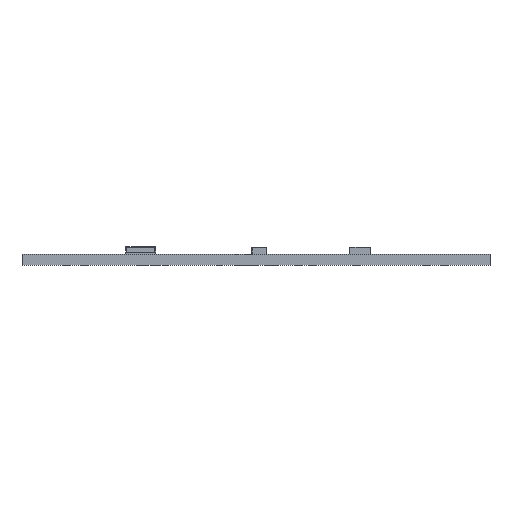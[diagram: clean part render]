
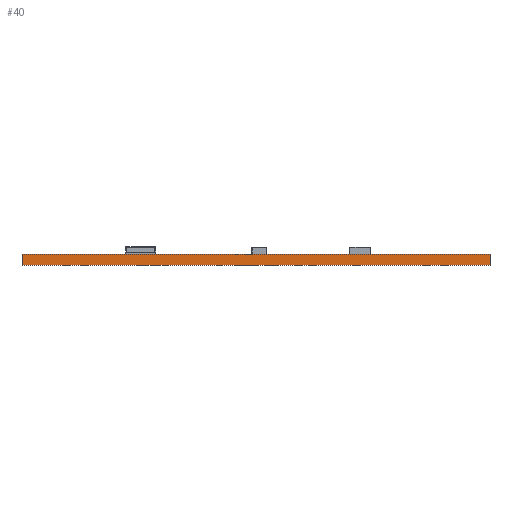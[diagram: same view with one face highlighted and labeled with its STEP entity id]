
A CAD part, front view. The second image highlights one B-rep face of the part: STEP entity #40.
In plain terms, the highlighted planar face has unit normal (0, -1, 0).
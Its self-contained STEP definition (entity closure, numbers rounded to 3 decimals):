
#40 = ADVANCED_FACE('',(#41),#75,.F.);
#41 = FACE_BOUND('',#42,.F.);
#42 = EDGE_LOOP('',(#43,#53,#61,#69));
#43 = ORIENTED_EDGE('',*,*,#44,.T.);
#44 = EDGE_CURVE('',#45,#47,#49,.T.);
#45 = VERTEX_POINT('',#46);
#46 = CARTESIAN_POINT('',(0.,0.,-1.571));
#47 = VERTEX_POINT('',#48);
#48 = CARTESIAN_POINT('',(0.,0.,0.));
#49 = LINE('',#50,#51);
#50 = CARTESIAN_POINT('',(0.,0.,-1.571));
#51 = VECTOR('',#52,1.);
#52 = DIRECTION('',(0.,0.,1.));
#53 = ORIENTED_EDGE('',*,*,#54,.T.);
#54 = EDGE_CURVE('',#47,#55,#57,.T.);
#55 = VERTEX_POINT('',#56);
#56 = CARTESIAN_POINT('',(66.,0.,0.));
#57 = LINE('',#58,#59);
#58 = CARTESIAN_POINT('',(0.,0.,0.));
#59 = VECTOR('',#60,1.);
#60 = DIRECTION('',(1.,0.,0.));
#61 = ORIENTED_EDGE('',*,*,#62,.F.);
#62 = EDGE_CURVE('',#63,#55,#65,.T.);
#63 = VERTEX_POINT('',#64);
#64 = CARTESIAN_POINT('',(66.,0.,-1.571));
#65 = LINE('',#66,#67);
#66 = CARTESIAN_POINT('',(66.,0.,-1.571));
#67 = VECTOR('',#68,1.);
#68 = DIRECTION('',(0.,0.,1.));
#69 = ORIENTED_EDGE('',*,*,#70,.F.);
#70 = EDGE_CURVE('',#45,#63,#71,.T.);
#71 = LINE('',#72,#73);
#72 = CARTESIAN_POINT('',(0.,0.,-1.571));
#73 = VECTOR('',#74,1.);
#74 = DIRECTION('',(1.,0.,0.));
#75 = PLANE('',#76);
#76 = AXIS2_PLACEMENT_3D('',#77,#78,#79);
#77 = CARTESIAN_POINT('',(0.,0.,-1.571));
#78 = DIRECTION('',(0.,1.,0.));
#79 = DIRECTION('',(1.,0.,0.));
